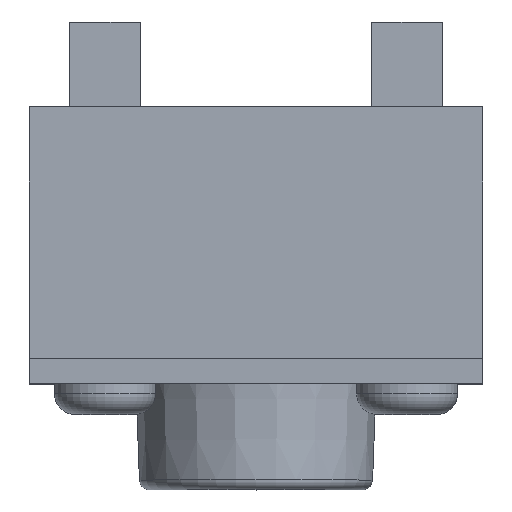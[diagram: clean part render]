
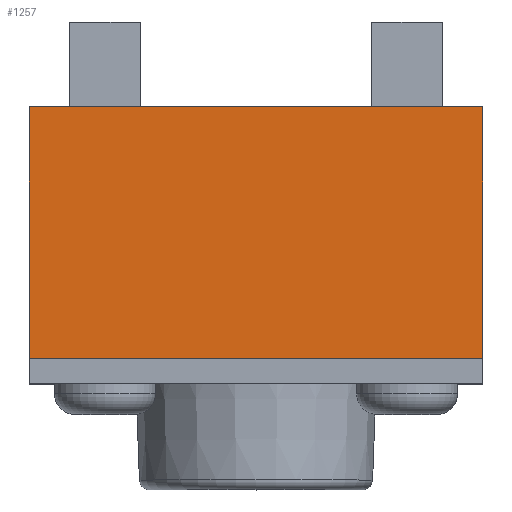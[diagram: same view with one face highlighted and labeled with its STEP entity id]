
A CAD part, top view. The second image highlights one B-rep face of the part: STEP entity #1257.
In plain terms, the highlighted planar face has unit normal (0, 0, 1).
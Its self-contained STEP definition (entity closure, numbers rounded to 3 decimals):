
#39=DIRECTION('',(1.,0.,0.));
#40=VECTOR('',#39,4.5);
#41=CARTESIAN_POINT('',(-2.25,0.,2.25));
#42=LINE('',#41,#40);
#196=DIRECTION('',(0.,1.,0.));
#197=VECTOR('',#196,2.5);
#198=CARTESIAN_POINT('',(2.25,0.,2.25));
#199=LINE('',#198,#197);
#203=DIRECTION('',(0.,1.,0.));
#204=VECTOR('',#203,2.5);
#205=CARTESIAN_POINT('',(-2.25,0.,2.25));
#206=LINE('',#205,#204);
#231=DIRECTION('',(1.,0.,0.));
#232=VECTOR('',#231,4.5);
#233=CARTESIAN_POINT('',(-2.25,2.5,2.25));
#234=LINE('',#233,#232);
#989=CARTESIAN_POINT('',(-2.25,0.,2.25));
#990=VERTEX_POINT('',#989);
#991=CARTESIAN_POINT('',(2.25,0.,2.25));
#992=VERTEX_POINT('',#991);
#997=CARTESIAN_POINT('',(-2.25,2.5,2.25));
#998=VERTEX_POINT('',#997);
#999=CARTESIAN_POINT('',(2.25,2.5,2.25));
#1000=VERTEX_POINT('',#999);
#1244=CARTESIAN_POINT('',(-2.25,0.,2.25));
#1245=DIRECTION('',(0.,0.,1.));
#1246=DIRECTION('',(1.,0.,0.));
#1247=AXIS2_PLACEMENT_3D('',#1244,#1245,#1246);
#1248=PLANE('',#1247);
#1249=ORIENTED_EDGE('',*,*,#1158,.F.);
#1251=ORIENTED_EDGE('',*,*,#1250,.T.);
#1253=ORIENTED_EDGE('',*,*,#1252,.T.);
#1254=ORIENTED_EDGE('',*,*,#1236,.F.);
#1255=EDGE_LOOP('',(#1249,#1251,#1253,#1254));
#1256=FACE_OUTER_BOUND('',#1255,.F.);
#1158=EDGE_CURVE('',#990,#992,#42,.T.);
#1236=EDGE_CURVE('',#992,#1000,#199,.T.);
#1250=EDGE_CURVE('',#990,#998,#206,.T.);
#1252=EDGE_CURVE('',#998,#1000,#234,.T.);
#1257=ADVANCED_FACE('',(#1256),#1248,.T.);
